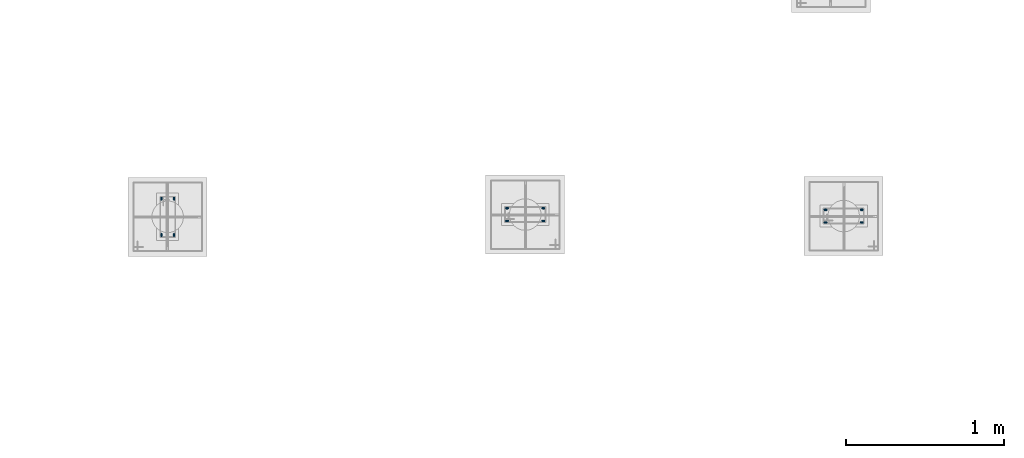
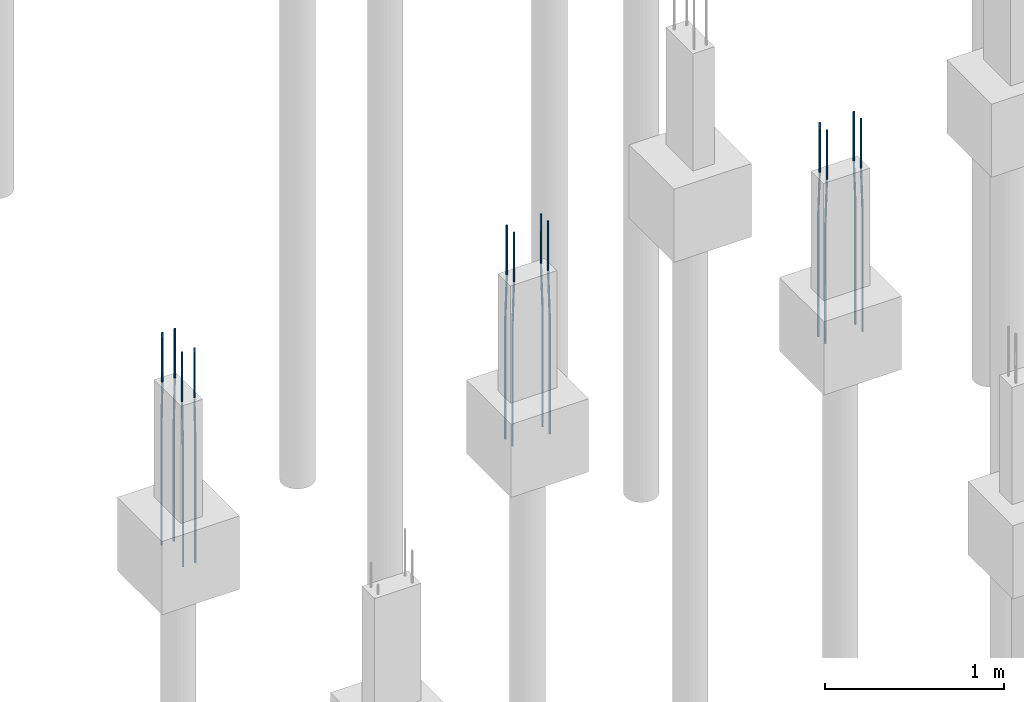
# One storey, part 21 of 119: 12 reinforcing bars.
"""IFC4 building model written with IfcOpenShell, lengths in centimetres."""

from ifc_helpers import new_model, entity, si_unit, derived_unit, frame, origin_with_axes, place, context, project, spatial, element, save


model = new_model("IFC4")

# Units and contexts
model_context = context("Model", 3, precision=1e-05, world=origin_with_axes(), identifier="Body")
ifc_project = project(units=[si_unit("LENGTHUNIT", "METRE", prefix="CENTI"), si_unit("VOLUMEUNIT", "CUBIC_METRE"), si_unit("AREAUNIT", "SQUARE_METRE"), si_unit("POWERUNIT", "WATT"), si_unit("LUMINOUSFLUXUNIT", "LUMEN"), si_unit("ELECTRICCURRENTUNIT", "AMPERE"), si_unit("PRESSUREUNIT", "PASCAL", prefix="KILO"), si_unit("MASSUNIT", "GRAM", prefix="KILO"), si_unit("PLANEANGLEUNIT", "RADIAN"), derived_unit("VOLUMETRICFLOWRATEUNIT", [(si_unit("LENGTHUNIT", "METRE"), 3), (si_unit("TIMEUNIT", "SECOND"), -1)])], contexts=[model_context])

# Site, building, storey
site_placement = place(None, frame((-4000.0, 0.0, 0.0), z_axis=(0.0, 0.0, 1.0), x_axis=(1.0, 0.0, 0.0)))
site = spatial("IfcSite", under=ifc_project, at=site_placement, Name="PADRÃO")
building_placement = place(site_placement, frame((0.0, 0.0, -14.0)))
building = spatial("IfcBuilding", under=site, at=building_placement, Name="CRECHE PRÉ-ESCOLA TIPO 2")
storey_placement = place(building_placement, origin_with_axes())
storey = spatial("IfcBuildingStorey", under=building, at=storey_placement, Name="FUNDAÇÃO", CompositionType="ELEMENT", Elevation=-14.0)

# Reinforcing bars
for number, where, z_axis, x_axis, name in (
    (1, (2519.5, 1263.58, 33.3573001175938), (0.0, 0.0, 1.0), (1.0, 0.0, 0.0), "P110 - Longitudinal"),
    (2, (2527.5, 1263.58, 33.3573001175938), (0.0, 0.0, 1.0), (1.0, 0.0, 0.0), "P110 - Longitudinal"),
):
    element("IfcReinforcingBar", number, at=place(storey_placement, frame(where, z_axis=z_axis, x_axis=x_axis)), inside=storey, Name=name, BarLength=0.0, CrossSectionArea=7.853981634e-05, NominalDiameter=1.0, PredefinedType="MAIN", context=model_context, shape_type="AdvancedSweptSolid", body=[
        entity("IfcSweptDiskSolid", entity("IfcCompositeCurve", [entity("IfcCompositeCurveSegment", "CONTINUOUS", True, entity("IfcPolyline", [entity("IfcCartesianPoint", [0.0, 0.5, -145.357300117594]), entity("IfcCartesianPoint", [0.0, 0.5, -63.3573001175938])])), entity("IfcCompositeCurveSegment", "CONTINUOUS", True, entity("IfcPolyline", [entity("IfcCartesianPoint", [0.0, 0.5, -63.3573001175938]), entity("IfcCartesianPoint", [0.0, -0.5, -33.3573001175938])])), entity("IfcCompositeCurveSegment", "CONTINUOUS", True, entity("IfcPolyline", [entity("IfcCartesianPoint", [0.0, -0.5, -33.3573001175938]), entity("IfcCartesianPoint", [0.0, -0.5, 0.0])]))], False), 0.5),
    ])
for number, where, z_axis, x_axis, name in (
    (3, (2527.5, 1240.58, 33.3573001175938), (0.0, 0.0, 1.0), (1.0, 0.0, 0.0), "P110 - Longitudinal"),
    (4, (2519.5, 1240.58, 33.3573001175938), (0.0, 0.0, 1.0), (1.0, 0.0, 0.0), "P110 - Longitudinal"),
):
    element("IfcReinforcingBar", number, at=place(storey_placement, frame(where, z_axis=z_axis, x_axis=x_axis)), inside=storey, Name=name, BarLength=0.0, CrossSectionArea=7.853981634e-05, NominalDiameter=1.0, PredefinedType="MAIN", context=model_context, shape_type="AdvancedSweptSolid", body=[
        entity("IfcSweptDiskSolid", entity("IfcCompositeCurve", [entity("IfcCompositeCurveSegment", "CONTINUOUS", True, entity("IfcPolyline", [entity("IfcCartesianPoint", [0.0, -0.5, -145.357300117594]), entity("IfcCartesianPoint", [0.0, -0.5, -63.3573001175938])])), entity("IfcCompositeCurveSegment", "CONTINUOUS", True, entity("IfcPolyline", [entity("IfcCartesianPoint", [0.0, -0.5, -63.3573001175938]), entity("IfcCartesianPoint", [0.0, 0.5, -33.3573001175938])])), entity("IfcCompositeCurveSegment", "CONTINUOUS", True, entity("IfcPolyline", [entity("IfcCartesianPoint", [0.0, 0.5, -33.3573001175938]), entity("IfcCartesianPoint", [0.0, 0.5, 0.0])]))], False), 0.5),
    ])
for number, where, z_axis, x_axis, name in (
    (5, (2738.24, 1249.51, 33.3573001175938), (0.0, 0.0, 1.0), (1.0, 0.0, 0.0), "P111 - Longitudinal"),
    (6, (2738.24, 1257.51, 33.3573001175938), (0.0, 0.0, 1.0), (1.0, 0.0, 0.0), "P111 - Longitudinal"),
):
    element("IfcReinforcingBar", number, at=place(storey_placement, frame(where, z_axis=z_axis, x_axis=x_axis)), inside=storey, Name=name, BarLength=0.0, CrossSectionArea=7.853981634e-05, NominalDiameter=1.0, PredefinedType="MAIN", context=model_context, shape_type="AdvancedSweptSolid", body=[
        entity("IfcSweptDiskSolid", entity("IfcCompositeCurve", [entity("IfcCompositeCurveSegment", "CONTINUOUS", True, entity("IfcPolyline", [entity("IfcCartesianPoint", [-0.5, 0.0, -145.357300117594]), entity("IfcCartesianPoint", [-0.5, 0.0, -63.3573001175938])])), entity("IfcCompositeCurveSegment", "CONTINUOUS", True, entity("IfcPolyline", [entity("IfcCartesianPoint", [-0.5, 0.0, -63.3573001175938]), entity("IfcCartesianPoint", [0.5, 0.0, -33.3573001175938])])), entity("IfcCompositeCurveSegment", "CONTINUOUS", True, entity("IfcPolyline", [entity("IfcCartesianPoint", [0.5, 0.0, -33.3573001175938]), entity("IfcCartesianPoint", [0.5, 0.0, 0.0])]))], False), 0.5),
    ])
for number, where, z_axis, x_axis, name in (
    (7, (2761.24, 1257.51, 33.3573001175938), (0.0, 0.0, 1.0), (1.0, 0.0, 0.0), "P111 - Longitudinal"),
    (8, (2761.24, 1249.51, 33.3573001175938), (0.0, 0.0, 1.0), (1.0, 0.0, 0.0), "P111 - Longitudinal"),
):
    element("IfcReinforcingBar", number, at=place(storey_placement, frame(where, z_axis=z_axis, x_axis=x_axis)), inside=storey, Name=name, BarLength=0.0, CrossSectionArea=7.853981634e-05, NominalDiameter=1.0, PredefinedType="MAIN", context=model_context, shape_type="AdvancedSweptSolid", body=[
        entity("IfcSweptDiskSolid", entity("IfcCompositeCurve", [entity("IfcCompositeCurveSegment", "CONTINUOUS", True, entity("IfcPolyline", [entity("IfcCartesianPoint", [0.5, 0.0, -145.357300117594]), entity("IfcCartesianPoint", [0.5, 0.0, -63.3573001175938])])), entity("IfcCompositeCurveSegment", "CONTINUOUS", True, entity("IfcPolyline", [entity("IfcCartesianPoint", [0.5, 0.0, -63.3573001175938]), entity("IfcCartesianPoint", [-0.5, 0.0, -33.3573001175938])])), entity("IfcCompositeCurveSegment", "CONTINUOUS", True, entity("IfcPolyline", [entity("IfcCartesianPoint", [-0.5, 0.0, -33.3573001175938]), entity("IfcCartesianPoint", [-0.5, 0.0, 0.0])]))], False), 0.5),
    ])
for number, where, z_axis, x_axis, name in (
    (9, (2939.74, 1256.52, 33.3573001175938), (0.0, 0.0, 1.0), (1.0, 0.0, 0.0), "P112 - Longitudinal"),
    (10, (2939.74, 1248.52, 33.3573001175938), (0.0, 0.0, 1.0), (1.0, 0.0, 0.0), "P112 - Longitudinal"),
):
    element("IfcReinforcingBar", number, at=place(storey_placement, frame(where, z_axis=z_axis, x_axis=x_axis)), inside=storey, Name=name, BarLength=0.0, CrossSectionArea=7.853981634e-05, NominalDiameter=1.0, PredefinedType="MAIN", context=model_context, shape_type="AdvancedSweptSolid", body=[
        entity("IfcSweptDiskSolid", entity("IfcCompositeCurve", [entity("IfcCompositeCurveSegment", "CONTINUOUS", True, entity("IfcPolyline", [entity("IfcCartesianPoint", [-0.5, 0.0, -145.357300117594]), entity("IfcCartesianPoint", [-0.5, 0.0, -63.3573001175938])])), entity("IfcCompositeCurveSegment", "CONTINUOUS", True, entity("IfcPolyline", [entity("IfcCartesianPoint", [-0.5, 0.0, -63.3573001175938]), entity("IfcCartesianPoint", [0.5, 0.0, -33.3573001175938])])), entity("IfcCompositeCurveSegment", "CONTINUOUS", True, entity("IfcPolyline", [entity("IfcCartesianPoint", [0.5, 0.0, -33.3573001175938]), entity("IfcCartesianPoint", [0.5, 0.0, 0.0])]))], False), 0.5),
    ])
for number, where, z_axis, x_axis, name in (
    (11, (2962.74, 1256.52, 33.3573001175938), (0.0, 0.0, 1.0), (1.0, 0.0, 0.0), "P112 - Longitudinal"),
    (12, (2962.74, 1248.52, 33.3573001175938), (0.0, 0.0, 1.0), (1.0, 0.0, 0.0), "P112 - Longitudinal"),
):
    element("IfcReinforcingBar", number, at=place(storey_placement, frame(where, z_axis=z_axis, x_axis=x_axis)), inside=storey, Name=name, BarLength=0.0, CrossSectionArea=7.853981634e-05, NominalDiameter=1.0, PredefinedType="MAIN", context=model_context, shape_type="AdvancedSweptSolid", body=[
        entity("IfcSweptDiskSolid", entity("IfcCompositeCurve", [entity("IfcCompositeCurveSegment", "CONTINUOUS", True, entity("IfcPolyline", [entity("IfcCartesianPoint", [0.5, 0.0, -145.357300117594]), entity("IfcCartesianPoint", [0.5, 0.0, -63.3573001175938])])), entity("IfcCompositeCurveSegment", "CONTINUOUS", True, entity("IfcPolyline", [entity("IfcCartesianPoint", [0.5, 0.0, -63.3573001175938]), entity("IfcCartesianPoint", [-0.5, 0.0, -33.3573001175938])])), entity("IfcCompositeCurveSegment", "CONTINUOUS", True, entity("IfcPolyline", [entity("IfcCartesianPoint", [-0.5, 0.0, -33.3573001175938]), entity("IfcCartesianPoint", [-0.5, 0.0, 0.0])]))], False), 0.5),
    ])

save(model, "model.ifc")
